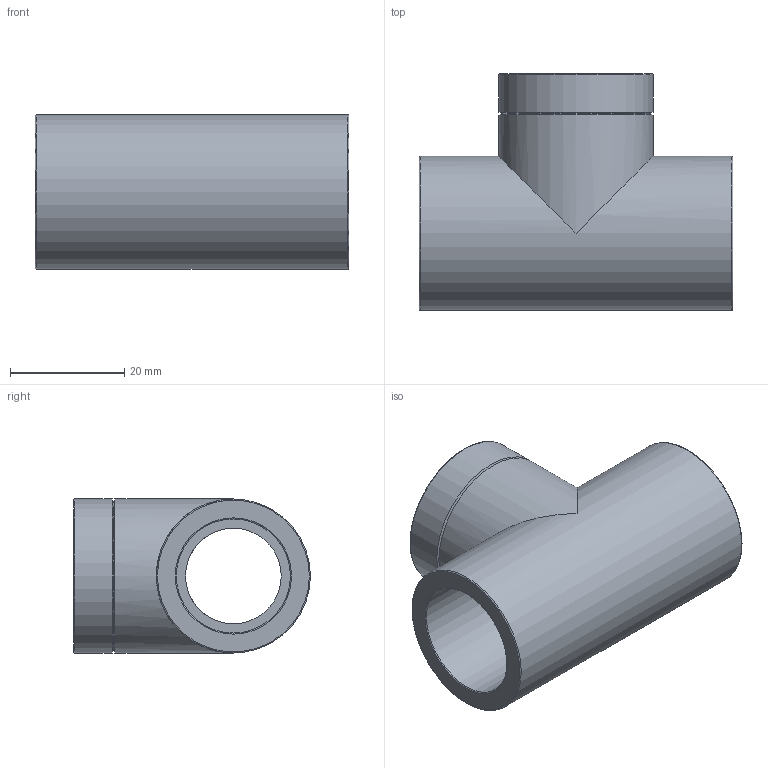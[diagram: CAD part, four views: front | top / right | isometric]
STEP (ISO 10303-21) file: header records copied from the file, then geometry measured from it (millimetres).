
FILE_DESCRIPTION(/* description */ ('PLASSON TEE THR-CEM REINF. P 20-1/2"'),/* implementation_level */ '2;1');
FILE_NAME(/* name */ 'C:\Dropbox\KIMPROJECTS-Inventor\99-16-3568-Processing\PVC Catalog 2017\057402\050402020005.ipt.stp',/* time_stamp */ '2017-12-07T16:05:53+02:00',/* author */ ('KIM'),/* organization */ (''),/* preprocessor_version */ 'ST-DEVELOPER v15.6',/* originating_system */ 'Autodesk Inventor 2015',/* authorisation */ '');
FILE_SCHEMA (('AUTOMOTIVE_DESIGN { 1 0 10303 214 3 1 1 }'));
Length unit declared in the file: millimetre
Products named in the file (1): 050402020005
Bounding box: 55 x 41.5 x 27 mm (x, y, z)
Volume: 20323.6 mm3; surface area: 10892.1 mm2
Topology: 1 solids, 1 shells, 21 faces, 47 edges, 30 vertices
Faces by surface type: cylinder 8, plane 6, torus 5, cone 2
Full cylindrical faces by diameter (mm): 16.768 x2, 18.631 x1, 20 x2, 27 x3
Entity records: 486 total; most frequent: DIRECTION 92, CARTESIAN_POINT 70, ORIENTED_EDGE 48, AXIS2_PLACEMENT_3D 46, EDGE_LOOP 44, VERTEX_POINT 24, EDGE_CURVE 24, FACE_BOUND 23
